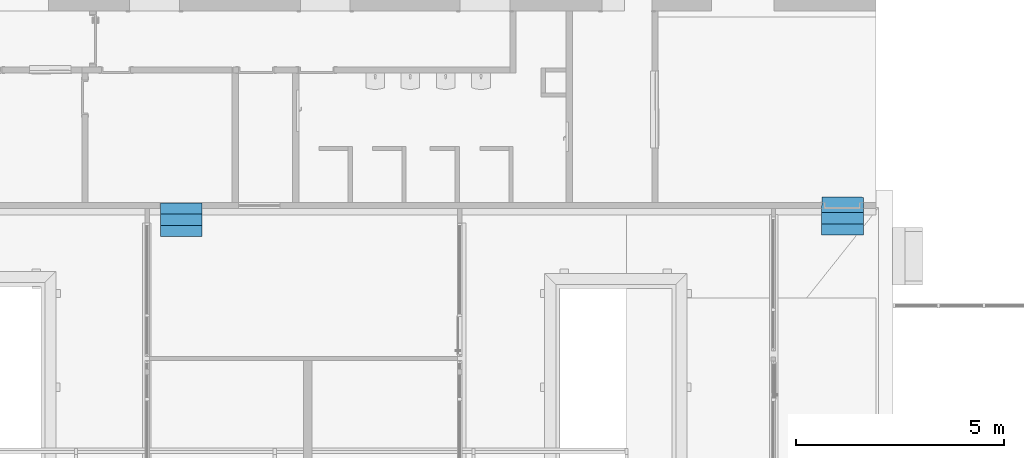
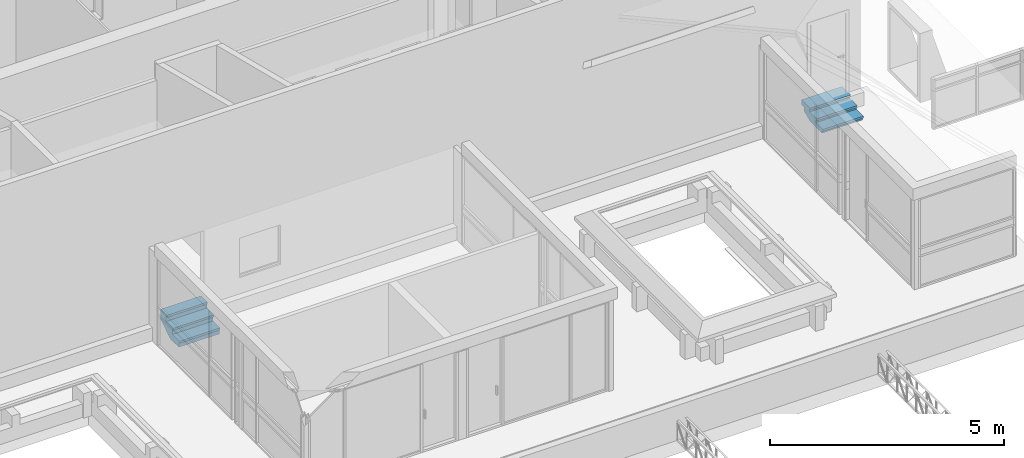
# One storey, part 147 of 153: 2 stair flights, 2 elements without a shape of their own.
"""IFC4 building model written with IfcOpenShell, lengths in metres."""

from ifc_helpers import new_model, entity, si_unit, converted_unit, derived_unit, direction, frame, origin, place, context, subcontext, project, spatial, polygons, material, constituent, constituent_set, type_object, element, aggregate, save


model = new_model("IFC4")

# Units and contexts
model_context = context("Model", 3, precision=1e-05, world=origin(), true_north=direction((6.123031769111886e-17, 1.0)))
body_context = subcontext(model_context, "Body", "Model", "MODEL_VIEW")
ifc_project = project(units=[si_unit("LENGTHUNIT", "METRE"), si_unit("AREAUNIT", "SQUARE_METRE"), si_unit("VOLUMEUNIT", "CUBIC_METRE"), converted_unit("PLANEANGLEUNIT", "DEGREE", entity("IfcRatioMeasure", 0.017453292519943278), si_unit("PLANEANGLEUNIT", "RADIAN"), dimensions=[0, 0, 0, 0, 0, 0, 0]), si_unit("MASSUNIT", "GRAM", prefix="KILO"), derived_unit("MASSDENSITYUNIT", [(si_unit("MASSUNIT", "GRAM", prefix="KILO"), 1), (si_unit("LENGTHUNIT", "METRE"), -3)]), derived_unit("MOMENTOFINERTIAUNIT", [(si_unit("LENGTHUNIT", "METRE"), 4)]), si_unit("TIMEUNIT", "SECOND"), si_unit("FREQUENCYUNIT", "HERTZ"), si_unit("THERMODYNAMICTEMPERATUREUNIT", "DEGREE_CELSIUS"), derived_unit("THERMALTRANSMITTANCEUNIT", [(si_unit("MASSUNIT", "GRAM", prefix="KILO"), 1), (si_unit("THERMODYNAMICTEMPERATUREUNIT", "KELVIN"), -1), (si_unit("TIMEUNIT", "SECOND"), -3)]), derived_unit("VOLUMETRICFLOWRATEUNIT", [(si_unit("LENGTHUNIT", "METRE"), 3), (si_unit("TIMEUNIT", "SECOND"), -1)]), derived_unit("MASSFLOWRATEUNIT", [(si_unit("MASSUNIT", "GRAM", prefix="KILO"), 1), (si_unit("TIMEUNIT", "SECOND"), -1)]), derived_unit("ROTATIONALFREQUENCYUNIT", [(si_unit("TIMEUNIT", "SECOND"), -1)]), si_unit("ELECTRICCURRENTUNIT", "AMPERE"), si_unit("ELECTRICVOLTAGEUNIT", "VOLT"), si_unit("POWERUNIT", "WATT"), si_unit("FORCEUNIT", "NEWTON", prefix="KILO"), si_unit("ILLUMINANCEUNIT", "LUX"), si_unit("LUMINOUSFLUXUNIT", "LUMEN"), si_unit("LUMINOUSINTENSITYUNIT", "CANDELA"), derived_unit("USERDEFINED", [(si_unit("MASSUNIT", "GRAM", prefix="KILO"), -1), (si_unit("LENGTHUNIT", "METRE"), -2), (si_unit("TIMEUNIT", "SECOND"), 3), (si_unit("LUMINOUSFLUXUNIT", "LUMEN"), 1)]), derived_unit("SOUNDPOWERUNIT", [(si_unit("MASSUNIT", "GRAM", prefix="KILO"), 1), (si_unit("LENGTHUNIT", "METRE"), 2), (si_unit("TIMEUNIT", "SECOND"), -3)]), derived_unit("SOUNDPRESSUREUNIT", [(si_unit("MASSUNIT", "GRAM", prefix="KILO"), 1), (si_unit("LENGTHUNIT", "METRE"), -1), (si_unit("TIMEUNIT", "SECOND"), -2)]), derived_unit("LINEARVELOCITYUNIT", [(si_unit("LENGTHUNIT", "METRE"), 1), (si_unit("TIMEUNIT", "SECOND"), -1)]), si_unit("PRESSUREUNIT", "PASCAL"), derived_unit("USERDEFINED", [(si_unit("LENGTHUNIT", "METRE"), -2), (si_unit("MASSUNIT", "GRAM", prefix="KILO"), 1), (si_unit("TIMEUNIT", "SECOND"), -2)]), derived_unit("LINEARFORCEUNIT", [(si_unit("MASSUNIT", "GRAM", prefix="KILO"), 1), (si_unit("LENGTHUNIT", "METRE"), 1), (si_unit("TIMEUNIT", "SECOND"), -2), (si_unit("LENGTHUNIT", "METRE"), -1)]), derived_unit("PLANARFORCEUNIT", [(si_unit("MASSUNIT", "GRAM", prefix="KILO"), 1), (si_unit("LENGTHUNIT", "METRE"), 1), (si_unit("TIMEUNIT", "SECOND"), -2), (si_unit("LENGTHUNIT", "METRE"), -2)])], contexts=[model_context])

# Site, building, storey
site_placement = place(None, origin())
site = spatial("IfcSite", under=ifc_project, at=site_placement, Name="Superficie", CompositionType="ELEMENT")
building_placement = place(site_placement, origin())
building = spatial("IfcBuilding", under=site, at=building_placement, CompositionType="ELEMENT")
storey_placement = place(building_placement, frame((0.0, 0.0, 3.5999999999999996)))
storey = spatial("IfcBuildingStorey", under=building, at=storey_placement, Name="Nivel 1", CompositionType="ELEMENT", Elevation=3.5999999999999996)

# Stair, stair flight
stair_type_1 = type_object("IfcStairType", Name="Escalera moldeada in situ:Losa de hormigón - C=17cm H=30cm", PredefinedType="STRAIGHT_RUN_STAIR")
stair_1_placement = place(storey_placement, origin())
stair_1 = element("IfcStair", 1, at=stair_1_placement, inside=storey, type_object=stair_type_1, Name="Escalera moldeada in situ:Escalera", ObjectType="Escalera moldeada in situ:Losa de hormigón - C=17cm H=30cm", PredefinedType="STRAIGHT_RUN_STAIR")
ifc_material_1 = material(Name="Cerámica blanca", Category="Cerámica")
ifc_constituent_1 = constituent(ifc_material_1, Name="Cerámica blanca", Category="Cerámica")
ifc_material_2 = material(Name="Hormigón", Category="Hormigón")
ifc_constituent_2 = constituent(ifc_material_2, Name="Hormigón", Category="Hormigón")
ifc_constituent_set_1 = constituent_set(constituents=[ifc_constituent_1, ifc_constituent_2], Name="MaterialConstituentSet")
stair_flight_type_1 = type_object("IfcStairFlightType", Name="Tramo monolítico:Huella 40 mm Mamperlán 30 mm Contrahuella 15 mm", PredefinedType="STRAIGHT")
stair_flight_1_placement = place(stair_1_placement, frame((3.4117990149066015, 4.954918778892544, 0.0)))
stair_flight_1 = element("IfcStairFlight", 2, at=stair_flight_1_placement, type_object=stair_flight_type_1, material=ifc_constituent_set_1, Name="Escalera moldeada in situ:Escalera:411257 Run 1", ObjectType="Tramo monolítico:Huella 40 mm Mamperlán 30 mm Contrahuella 15 mm", PredefinedType="STRAIGHT", context=body_context, shape_type="Tessellation", body=[
    polygons([(1.0000000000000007, 1.0828671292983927e-15, 0.12333333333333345), (1.0000000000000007, 1.0828671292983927e-15, 0.17333333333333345), (5.414335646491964e-16, 1.0828671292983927e-15, 0.17333333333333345), (5.414335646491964e-16, 1.0828671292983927e-15, 0.12333333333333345), (1.0000000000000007, 0.02300000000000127, 0.12333333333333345), (5.414335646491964e-16, 0.02300000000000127, 0.12333333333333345), (1.0000000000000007, 0.023000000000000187, 0.13333333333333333), (5.414335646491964e-16, 0.023000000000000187, 0.13333333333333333), (1.000000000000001, 0.31499999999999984, 0.17333333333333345), (1.0828671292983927e-15, 0.315000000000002, 0.17333333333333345), (1.0828671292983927e-15, 0.315000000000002, 0.13333333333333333), (1.000000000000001, 0.31499999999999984, 0.13333333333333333)], [[[1, 2, 3, 4]], [[5, 1, 4, 6]], [[7, 5, 6, 8]], [[3, 2, 9, 10]], [[11, 12, 7, 8]], [[3, 10, 11, 8, 6, 4]], [[9, 2, 1, 5, 7, 12]], [[10, 9, 12, 11]]], closed=True),
    polygons([(1.0000000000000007, 0.03000000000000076, 0.13333333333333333), (1.0000000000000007, 0.03000000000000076, 0.0), (1.0000000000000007, 0.0450000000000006, 0.0), (1.0000000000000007, 0.0450000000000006, 0.13333333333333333), (5.414335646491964e-16, 0.03000000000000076, 0.13333333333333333), (5.414335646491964e-16, 0.0450000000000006, 0.13333333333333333), (5.414335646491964e-16, 0.0450000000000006, 0.0), (5.414335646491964e-16, 0.03000000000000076, 0.0)], [[[1, 2, 3, 4]], [[5, 6, 7, 8]], [[2, 1, 5, 8]], [[3, 2, 8, 7]], [[4, 3, 7, 6]], [[1, 4, 6, 5]]], closed=True),
    polygons([(1.000000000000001, 0.30000000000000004, 0.30666666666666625), (1.000000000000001, 0.30000000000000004, 0.17333333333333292), (1.000000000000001, 0.31499999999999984, 0.17333333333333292), (1.000000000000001, 0.31499999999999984, 0.30666666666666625), (1.0828671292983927e-15, 0.3000000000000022, 0.30666666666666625), (1.0828671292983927e-15, 0.315000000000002, 0.30666666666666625), (1.0828671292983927e-15, 0.315000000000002, 0.17333333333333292), (1.0828671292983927e-15, 0.3000000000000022, 0.17333333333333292)], [[[1, 2, 3, 4]], [[5, 6, 7, 8]], [[2, 1, 5, 8]], [[3, 2, 8, 7]], [[4, 3, 7, 6]], [[1, 4, 6, 5]]], closed=True),
    polygons([(1.0828671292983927e-15, 0.2700000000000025, 0.34666666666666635), (1.000000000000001, 0.27000000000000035, 0.34666666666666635), (1.0000000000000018, 0.5849999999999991, 0.34666666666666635), (1.6243006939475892e-15, 0.5850000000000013, 0.34666666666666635), (1.6243006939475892e-15, 0.5850000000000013, 0.30666666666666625), (1.0000000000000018, 0.5849999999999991, 0.30666666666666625), (1.000000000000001, 0.2929999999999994, 0.30666666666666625), (1.0828671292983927e-15, 0.2930000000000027, 0.30666666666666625), (1.0828671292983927e-15, 0.2930000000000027, 0.29666666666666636), (1.0828671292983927e-15, 0.2700000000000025, 0.29666666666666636), (1.000000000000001, 0.27000000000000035, 0.29666666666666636), (1.000000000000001, 0.29300000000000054, 0.29666666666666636)], [[[1, 2, 3, 4]], [[5, 6, 7, 8]], [[1, 4, 5, 8, 9, 10]], [[3, 2, 11, 12, 7, 6]], [[4, 3, 6, 5]], [[11, 2, 1, 10]], [[12, 11, 10, 9]], [[7, 12, 9, 8]]], closed=True),
    polygons([(1.0000000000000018, 0.5699999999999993, 0.4799999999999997), (1.0000000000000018, 0.5699999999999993, 0.34666666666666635), (1.0000000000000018, 0.5849999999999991, 0.34666666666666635), (1.0000000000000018, 0.5849999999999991, 0.4799999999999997), (1.6243006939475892e-15, 0.5700000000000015, 0.4799999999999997), (1.6243006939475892e-15, 0.5850000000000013, 0.4799999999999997), (1.6243006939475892e-15, 0.5850000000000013, 0.34666666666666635), (1.6243006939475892e-15, 0.5700000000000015, 0.34666666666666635)], [[[1, 2, 3, 4]], [[5, 6, 7, 8]], [[2, 1, 5, 8]], [[3, 2, 8, 7]], [[4, 3, 7, 6]], [[1, 4, 6, 5]]], closed=True),
    polygons([(1.6243006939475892e-15, 0.5400000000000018, 0.5199999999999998), (1.0000000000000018, 0.5399999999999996, 0.5199999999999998), (1.0000000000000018, 0.8099999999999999, 0.5199999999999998), (2.7071678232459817e-15, 0.8100000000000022, 0.5199999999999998), (2.7071678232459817e-15, 0.8100000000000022, 0.4799999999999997), (1.0000000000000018, 0.8099999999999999, 0.4799999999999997), (1.0000000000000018, 0.5629999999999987, 0.4799999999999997), (1.6243006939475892e-15, 0.5630000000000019, 0.4799999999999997), (1.6243006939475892e-15, 0.5630000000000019, 0.4699999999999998), (1.6243006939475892e-15, 0.5400000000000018, 0.4699999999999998), (1.0000000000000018, 0.5399999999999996, 0.4699999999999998), (1.0000000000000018, 0.5629999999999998, 0.4699999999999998)], [[[1, 2, 3, 4]], [[5, 6, 7, 8]], [[1, 4, 5, 8, 9, 10]], [[3, 2, 11, 12, 7, 6]], [[4, 3, 6, 5]], [[11, 2, 1, 10]], [[12, 11, 10, 9]], [[7, 12, 9, 8]]], closed=True),
    polygons([(1.0828671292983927e-15, 0.31500000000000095, 0.13333333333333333), (5.414335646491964e-16, 0.0450000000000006, 0.13333333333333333), (1.0000000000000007, 0.0450000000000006, 0.13333333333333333), (1.000000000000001, 0.31499999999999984, 0.13333333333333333), (1.0828671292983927e-15, 0.315000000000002, 0.0), (5.414335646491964e-16, 0.0450000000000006, 0.0), (1.0000000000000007, 0.0450000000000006, 0.0), (1.000000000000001, 0.31499999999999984, 0.0), (1.6243006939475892e-15, 0.5850000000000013, 0.30666666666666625), (1.0828671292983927e-15, 0.31499999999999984, 0.30666666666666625), (1.000000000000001, 0.31499999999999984, 0.30666666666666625), (1.0000000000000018, 0.5849999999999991, 0.30666666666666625), (1.6243006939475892e-15, 0.5850000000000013, 0.11653359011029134), (1.0828671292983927e-15, 0.40347652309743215, 5.414335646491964e-16), (1.000000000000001, 0.40347652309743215, 5.414335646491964e-16), (1.0000000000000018, 0.5849999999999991, 0.11653359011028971), (2.7071678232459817e-15, 0.8100000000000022, 0.4799999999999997), (1.6243006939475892e-15, 0.5850000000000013, 0.4799999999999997), (1.0000000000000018, 0.5849999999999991, 0.4799999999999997), (1.0000000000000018, 0.8099999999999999, 0.4799999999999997), (2.7071678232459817e-15, 0.8100000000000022, 0.2609780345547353), (1.0000000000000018, 0.8099999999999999, 0.26097803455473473)], [[[1, 2, 3, 4]], [[2, 1, 5, 6]], [[3, 2, 6, 7]], [[4, 3, 7, 8]], [[9, 10, 11, 12]], [[5, 1, 10, 9, 13, 14]], [[1, 4, 11, 10]], [[4, 8, 15, 16, 12, 11]], [[17, 18, 19, 20]], [[18, 17, 21, 13, 9]], [[9, 12, 19, 18]], [[20, 19, 12, 16, 22]], [[17, 20, 22, 21]], [[6, 5, 14, 15, 8, 7]], [[15, 14, 13, 21, 22, 16]]], closed=True),
])
aggregate(stair_1, [stair_flight_1])

stair_type_2 = type_object("IfcStairType", Name="Escalera prefabricada:Escalera prefabricada", PredefinedType="STRAIGHT_RUN_STAIR")
stair_2_placement = place(storey_placement, origin())
stair_2 = element("IfcStair", 3, at=stair_2_placement, inside=storey, type_object=stair_type_2, Name="Escalera prefabricada:Escalera", ObjectType="Escalera prefabricada:Escalera prefabricada", PredefinedType="STRAIGHT_RUN_STAIR")
ifc_constituent_3 = constituent(ifc_material_1, Name="Cerámica blanca", Category="Cerámica")
ifc_constituent_4 = constituent(ifc_material_2, Name="Hormigón", Category="Hormigón")
ifc_constituent_set_2 = constituent_set(constituents=[ifc_constituent_3, ifc_constituent_4], Name="MaterialConstituentSet")
stair_flight_type_2 = type_object("IfcStairFlightType", Name="Tramo monolítico:Huella 40 mm Mamperlán 30 mm Contrahuella 15 mm", PredefinedType="STRAIGHT")
stair_flight_2_placement = place(stair_2_placement, frame((19.28449794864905, 4.987144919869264, 0.0)))
stair_flight_2 = element("IfcStairFlight", 4, at=stair_flight_2_placement, type_object=stair_flight_type_2, material=ifc_constituent_set_2, Name="Escalera prefabricada:Escalera:536798 Run 1", ObjectType="Tramo monolítico:Huella 40 mm Mamperlán 30 mm Contrahuella 15 mm", PredefinedType="STRAIGHT", context=body_context, shape_type="Tessellation", body=[
    polygons([(0.9999934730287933, 2.1657342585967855e-15, 0.0633333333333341), (0.9999934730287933, 1.0828671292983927e-15, 0.11333333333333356), (4.331468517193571e-15, 0.0036130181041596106, 0.11333333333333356), (4.331468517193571e-15, 0.0036130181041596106, 0.0633333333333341), (1.000076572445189, 0.02299984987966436, 0.0633333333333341), (8.309941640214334e-05, 0.026612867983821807, 0.0633333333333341), (1.000076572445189, 0.022999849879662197, 0.0733333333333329), (8.309941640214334e-05, 0.026612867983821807, 0.0733333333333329), (1.001131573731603, 0.31499794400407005, 0.11333333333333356), (0.0011381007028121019, 0.3186109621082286, 0.11333333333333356), (0.0011381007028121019, 0.3186109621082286, 0.0733333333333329), (1.001131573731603, 0.31499794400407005, 0.0733333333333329)], [[[1, 2, 3, 4]], [[5, 1, 4, 6]], [[7, 5, 6, 8]], [[3, 2, 9, 10]], [[11, 12, 7, 8]], [[3, 10, 11, 8, 6, 4]], [[9, 2, 1, 5, 7, 12]], [[10, 9, 12, 11]]], closed=True),
    polygons([(1.000101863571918, 0.029999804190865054, 0.0733333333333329), (1.000101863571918, 0.029999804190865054, 0.0), (1.0001560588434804, 0.0449997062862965, 0.0), (1.0001560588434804, 0.0449997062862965, 0.0733333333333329), (0.0001083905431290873, 0.03361282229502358, 0.0733333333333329), (0.00016258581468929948, 0.048612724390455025, 0.0733333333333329), (0.00016258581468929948, 0.048612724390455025, 0.0), (0.0001083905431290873, 0.03361282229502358, 0.0)], [[[1, 2, 3, 4]], [[5, 6, 7, 8]], [[2, 1, 5, 8]], [[3, 2, 8, 7]], [[4, 3, 7, 6]], [[1, 4, 6, 5]]], closed=True),
    polygons([(1.0010773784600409, 0.2999980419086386, 0.18666666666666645), (1.0010773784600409, 0.2999980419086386, 0.11333333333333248), (1.001131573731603, 0.31499794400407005, 0.11333333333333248), (1.001131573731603, 0.31499794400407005, 0.18666666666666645), (0.001083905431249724, 0.30361106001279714, 0.18666666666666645), (0.0011381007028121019, 0.3186109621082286, 0.18666666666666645), (0.0011381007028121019, 0.3186109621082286, 0.11333333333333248), (0.001083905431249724, 0.30361106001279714, 0.11333333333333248)], [[[1, 2, 3, 4]], [[5, 6, 7, 8]], [[2, 1, 5, 8]], [[3, 2, 8, 7]], [[4, 3, 7, 6]], [[1, 4, 6, 5]]], closed=True),
    polygons([(0.0009755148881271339, 0.2736112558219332, 0.22666666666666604), (1.0009689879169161, 0.26999823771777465, 0.22666666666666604), (1.0021070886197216, 0.5849961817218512, 0.22666666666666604), (0.0021136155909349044, 0.5886091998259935, 0.22666666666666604), (0.0021136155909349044, 0.5886091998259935, 0.18666666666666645), (1.0021070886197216, 0.5849961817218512, 0.18666666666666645), (1.0010520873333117, 0.29299808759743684, 0.18666666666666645), (0.0010586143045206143, 0.2966111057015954, 0.18666666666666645), (0.0010586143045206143, 0.2966111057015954, 0.17666666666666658), (0.0009755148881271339, 0.27361125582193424, 0.17666666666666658), (1.0009689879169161, 0.26999823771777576, 0.17666666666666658), (1.0010520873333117, 0.29299808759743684, 0.17666666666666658)], [[[1, 2, 3, 4]], [[5, 6, 7, 8]], [[1, 4, 5, 8, 9, 10]], [[3, 2, 11, 12, 7, 6]], [[4, 3, 6, 5]], [[11, 2, 1, 10]], [[12, 11, 10, 9]], [[7, 12, 9, 8]]], closed=True),
    polygons([(1.0020528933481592, 0.5699962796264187, 0.30000000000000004), (1.0020528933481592, 0.5699962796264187, 0.22666666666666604), (1.0021070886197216, 0.5849961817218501, 0.22666666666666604), (1.0021070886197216, 0.5849961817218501, 0.30000000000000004), (0.0020594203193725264, 0.573609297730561, 0.30000000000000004), (0.0021136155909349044, 0.5886091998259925, 0.30000000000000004), (0.0021136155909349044, 0.5886091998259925, 0.22666666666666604), (0.0020594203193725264, 0.573609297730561, 0.22666666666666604)], [[[1, 2, 3, 4]], [[5, 6, 7, 8]], [[2, 1, 5, 8]], [[3, 2, 8, 7]], [[4, 3, 7, 6]], [[1, 4, 6, 5]]], closed=True),
    polygons([(0.0019510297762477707, 0.543609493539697, 0.3399999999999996), (1.0019445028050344, 0.5399964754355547, 0.3399999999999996), (1.0032813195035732, 0.9099940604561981, 0.3399999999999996), (0.003287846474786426, 0.9136070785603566, 0.3399999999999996), (0.003287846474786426, 0.9136070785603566, 0.30000000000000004), (1.0032813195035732, 0.9099940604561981, 0.30000000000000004), (1.00202760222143, 0.5629963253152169, 0.30000000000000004), (0.002034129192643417, 0.5666093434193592, 0.30000000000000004), (0.002034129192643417, 0.5666093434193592, 0.29000000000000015), (0.0019510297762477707, 0.5436094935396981, 0.29000000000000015), (1.0019445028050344, 0.5399964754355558, 0.29000000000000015), (1.00202760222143, 0.562996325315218, 0.29000000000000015)], [[[1, 2, 3, 4]], [[5, 6, 7, 8]], [[1, 4, 5, 8, 9, 10]], [[3, 2, 11, 12, 7, 6]], [[4, 3, 6, 5]], [[11, 2, 1, 10]], [[12, 11, 10, 9]], [[7, 12, 9, 8]]], closed=True),
    polygons([(0.0011381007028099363, 0.31861096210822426, 0.07333333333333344), (0.00016258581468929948, 0.048612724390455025, 0.0733333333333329), (1.0001560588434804, 0.0449997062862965, 0.0733333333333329), (1.001131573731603, 0.3149979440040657, 0.07333333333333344), (0.0011381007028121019, 0.3186109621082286, 0.0), (0.00016258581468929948, 0.048612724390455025, 0.0), (1.0001560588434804, 0.0449997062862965, 0.0), (1.001131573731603, 0.31499794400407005, 0.0), (0.0021136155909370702, 0.5886091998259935, 0.18666666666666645), (0.0011381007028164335, 0.31861096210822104, 0.18666666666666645), (1.0011315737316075, 0.3149979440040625, 0.18666666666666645), (1.0021070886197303, 0.5849961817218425, 0.18666666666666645), (0.0021136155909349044, 0.5886091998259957, 0.013142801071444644), (0.0020004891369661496, 0.5572986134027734, 5.414335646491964e-16), (1.001993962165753, 0.5536855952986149, 5.414335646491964e-16), (1.002107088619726, 0.5849961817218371, 0.013142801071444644), (0.0021136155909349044, 0.5886091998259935, 0.30000000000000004), (1.0021070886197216, 0.5849961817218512, 0.30000000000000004), (1.0032813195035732, 0.9099940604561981, 0.30000000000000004), (0.003287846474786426, 0.9136070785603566, 0.30000000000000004), (0.003287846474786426, 0.9136070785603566, 0.2), (0.002926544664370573, 0.8136077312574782, 0.2), (0.002926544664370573, 0.8136077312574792, 0.10758724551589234), (1.0029200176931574, 0.8099947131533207, 0.10758724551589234), (1.0029200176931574, 0.8099947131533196, 0.2), (1.0032813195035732, 0.9099940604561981, 0.2)], [[[1, 2, 3, 4]], [[2, 1, 5, 6]], [[3, 2, 6, 7]], [[4, 3, 7, 8]], [[9, 10, 11, 12]], [[5, 1, 10, 9, 13, 14]], [[1, 4, 11, 10]], [[4, 8, 15, 16, 12, 11]], [[17, 18, 19, 20]], [[17, 20, 21, 22, 23, 13, 9]], [[9, 12, 18, 17]], [[19, 18, 12, 16, 24, 25, 26]], [[24, 23, 22, 25]], [[6, 5, 14, 15, 8, 7]], [[15, 14, 13, 23, 24, 16]], [[26, 25, 22, 21]], [[26, 21, 20, 19]]], closed=True),
])
aggregate(stair_2, [stair_flight_2])

save(model, "model.ifc")
